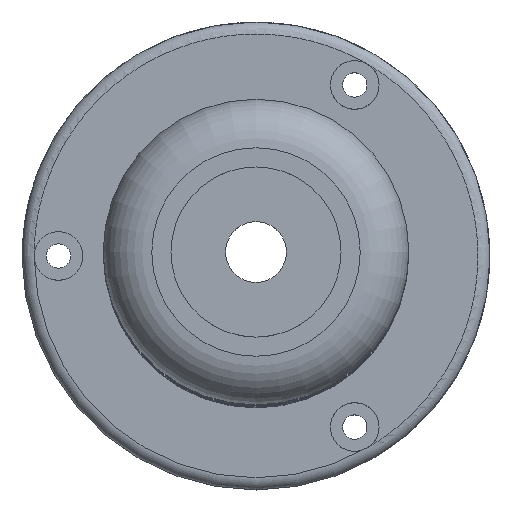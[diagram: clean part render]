
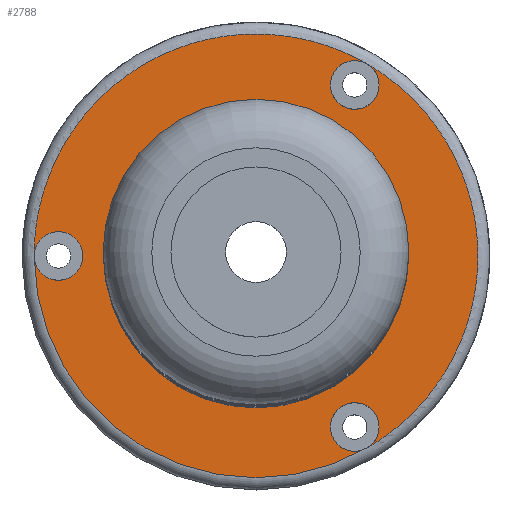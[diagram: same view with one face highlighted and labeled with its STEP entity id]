
A CAD part, top view. The second image highlights one B-rep face of the part: STEP entity #2788.
In plain terms, the highlighted planar face has unit normal (0, 0, -1).
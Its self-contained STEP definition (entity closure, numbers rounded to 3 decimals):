
#279=PLANE('',#35719);
#2175=FACE_BOUND('',#6889,.T.);
#2176=FACE_BOUND('',#6890,.T.);
#2177=FACE_BOUND('',#6891,.T.);
#2178=FACE_BOUND('',#6892,.T.);
#2179=FACE_BOUND('',#6893,.T.);
#2788=ADVANCED_FACE('',(#2175,#2176,#2177,#2178,#2179),#279,.T.);
#6889=EDGE_LOOP('',(#10668));
#6890=EDGE_LOOP('',(#10669));
#6891=EDGE_LOOP('',(#10670));
#6892=EDGE_LOOP('',(#10671));
#6893=EDGE_LOOP('',(#10672));
#10377=CIRCLE('',#35703,10.75);
#10385=CIRCLE('',#35715,2.);
#10386=CIRCLE('',#35716,2.);
#10387=CIRCLE('',#35717,2.);
#10388=CIRCLE('',#35718,38.);
#10668=ORIENTED_EDGE('',*,*,#23536,.T.);
#10669=ORIENTED_EDGE('',*,*,#23537,.T.);
#10670=ORIENTED_EDGE('',*,*,#23538,.T.);
#10671=ORIENTED_EDGE('',*,*,#23539,.T.);
#10672=ORIENTED_EDGE('',*,*,#23526,.F.);
#20254=VERTEX_POINT('',#49951);
#20264=VERTEX_POINT('',#50105);
#20265=VERTEX_POINT('',#50107);
#20266=VERTEX_POINT('',#50109);
#20267=VERTEX_POINT('',#50111);
#23526=EDGE_CURVE('',#20254,#20254,#10377,.T.);
#23536=EDGE_CURVE('',#20264,#20264,#10385,.T.);
#23537=EDGE_CURVE('',#20265,#20265,#10386,.T.);
#23538=EDGE_CURVE('',#20266,#20266,#10387,.T.);
#23539=EDGE_CURVE('',#20267,#20267,#10388,.T.);
#35703=AXIS2_PLACEMENT_3D('',#49950,#37929,#37930);
#35715=AXIS2_PLACEMENT_3D('',#50104,#37953,#37954);
#35716=AXIS2_PLACEMENT_3D('',#50106,#37955,#37956);
#35717=AXIS2_PLACEMENT_3D('',#50108,#37957,#37958);
#35718=AXIS2_PLACEMENT_3D('',#50110,#37959,#37960);
#35719=AXIS2_PLACEMENT_3D('',#50112,#37961,#37962);
#37929=DIRECTION('',(0.,0.,-1.));
#37930=DIRECTION('',(-1.,0.,0.));
#37953=DIRECTION('',(0.,0.,1.));
#37954=DIRECTION('',(1.,0.,0.));
#37955=DIRECTION('',(0.,0.,1.));
#37956=DIRECTION('',(1.,0.,0.));
#37957=DIRECTION('',(0.,0.,1.));
#37958=DIRECTION('',(1.,0.,0.));
#37959=DIRECTION('',(0.,0.,-1.));
#37960=DIRECTION('',(-1.,0.,0.));
#37961=DIRECTION('',(0.,0.,-1.));
#37962=DIRECTION('',(1.,0.,0.));
#49950=CARTESIAN_POINT('',(300.,-200.,-167.702));
#49951=CARTESIAN_POINT('',(289.25,-200.,-167.702));
#50104=CARTESIAN_POINT('',(316.25,-171.854,-167.702));
#50105=CARTESIAN_POINT('',(318.25,-171.854,-167.702));
#50106=CARTESIAN_POINT('',(316.25,-228.146,-167.702));
#50107=CARTESIAN_POINT('',(318.25,-228.146,-167.702));
#50108=CARTESIAN_POINT('',(267.5,-200.,-167.702));
#50109=CARTESIAN_POINT('',(269.5,-200.,-167.702));
#50110=CARTESIAN_POINT('',(300.,-200.,-167.702));
#50111=CARTESIAN_POINT('',(262.,-200.,-167.702));
#50112=CARTESIAN_POINT('',(300.,-200.,-167.702));
